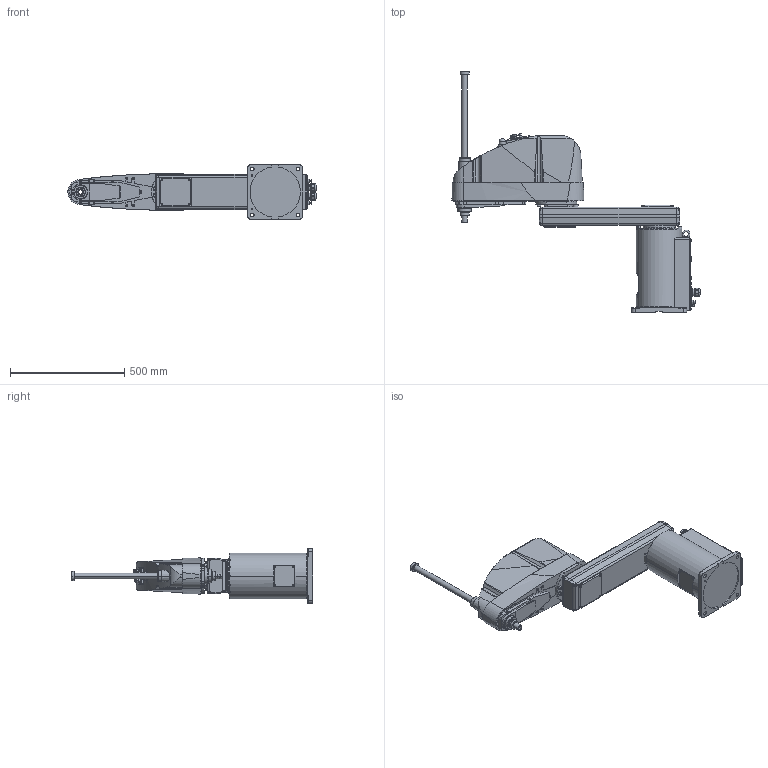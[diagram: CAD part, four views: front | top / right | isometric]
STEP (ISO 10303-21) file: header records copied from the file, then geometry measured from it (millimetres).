
FILE_DESCRIPTION( ( '' ), '1' );
FILE_NAME( '//expscmdclustefs.cadenas.external/client_exchange/iodir/jobs/output/wkb51503372_no0/STEP/G20_854S_2_03.stp', '2012-11-22T12:51:50', ( '' ), ( '' ), ' ', ' ', ' ' );
FILE_SCHEMA( ( 'CONFIG_CONTROL_DESIGN' ) );
Length unit declared in the file: millimetre
Products named in the file (4): 1; 2; 3; 4
Bounding box: 1084.5 x 1053.5 x 240 mm (x, y, z)
Volume: 40594285.2 mm3; surface area: 1405234.3 mm2
Topology: 4 solids, 5 shells, 1783 faces, 4332 edges, 2812 vertices
Faces by surface type: plane 994, cylinder 573, cone 180, torus 35, sphere 1
Entity records: 53754 total; most frequent: CARTESIAN_POINT 10590, DIRECTION 9216, ORIENTED_EDGE 8648, EDGE_CURVE 4324, AXIS2_PLACEMENT_3D 3228, VERTEX_POINT 2812, LINE 2760, VECTOR 2760
